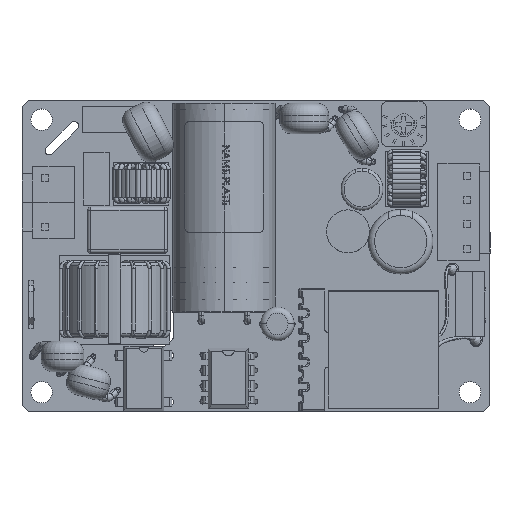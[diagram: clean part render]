
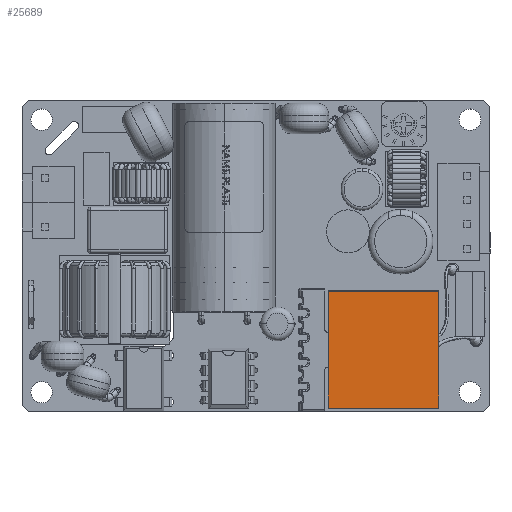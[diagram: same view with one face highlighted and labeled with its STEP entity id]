
A CAD part, top view. The second image highlights one B-rep face of the part: STEP entity #25689.
In plain terms, the highlighted planar face has unit normal (0, 0, 1).
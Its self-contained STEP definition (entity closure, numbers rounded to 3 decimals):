
#2837 = VECTOR ( 'NONE', #24028, 1000. ) ;
#8200 = VECTOR ( 'NONE', #45306, 1000. ) ;
#14223 = CARTESIAN_POINT ( 'NONE',  ( 20.8, 1.5, 10.75 ) ) ;
#16282 = DIRECTION ( 'NONE',  ( 0., 0., 1. ) ) ;
#19106 = EDGE_CURVE ( 'NONE', #115318, #62602, #36852, .T. ) ;
#20823 = FACE_OUTER_BOUND ( 'NONE', #31431, .T. ) ;
#23590 = CARTESIAN_POINT ( 'NONE',  ( 20.8, 1.5, 10.75 ) ) ;
#24028 = DIRECTION ( 'NONE',  ( 0., 1., 0. ) ) ;
#25689 = ADVANCED_FACE ( 'NONE', ( #20823 ), #64568, .T. ) ;
#31431 = EDGE_LOOP ( 'NONE', ( #99784, #92982, #75285, #38957 ) ) ;
#32983 = EDGE_CURVE ( 'NONE', #51498, #115318, #107102, .T. ) ;
#36852 = LINE ( 'NONE', #117219, #115003 ) ;
#38957 = ORIENTED_EDGE ( 'NONE', *, *, #19106, .T. ) ;
#45306 = DIRECTION ( 'NONE',  ( 0., -1., 0. ) ) ;
#46278 = LINE ( 'NONE', #61125, #72230 ) ;
#49659 = EDGE_CURVE ( 'NONE', #57439, #51498, #46278, .T. ) ;
#51498 = VERTEX_POINT ( 'NONE', #75437 ) ;
#57121 = EDGE_CURVE ( 'NONE', #62602, #57439, #63418, .T. ) ;
#57439 = VERTEX_POINT ( 'NONE', #108161 ) ;
#57982 = CARTESIAN_POINT ( 'NONE',  ( 2.8, 1.5, 10.75 ) ) ;
#61125 = CARTESIAN_POINT ( 'NONE',  ( 2.8, -17.5, 10.75 ) ) ;
#62602 = VERTEX_POINT ( 'NONE', #57982 ) ;
#63418 = LINE ( 'NONE', #84627, #8200 ) ;
#64568 = PLANE ( 'NONE',  #116303 ) ;
#67487 = DIRECTION ( 'NONE',  ( -1., 0., 0. ) ) ;
#72230 = VECTOR ( 'NONE', #119878, 1000. ) ;
#74867 = CARTESIAN_POINT ( 'NONE',  ( 0., 0., 10.75 ) ) ;
#75285 = ORIENTED_EDGE ( 'NONE', *, *, #32983, .T. ) ;
#75437 = CARTESIAN_POINT ( 'NONE',  ( 20.8, -17.5, 10.75 ) ) ;
#84627 = CARTESIAN_POINT ( 'NONE',  ( 2.8, 1.5, 10.75 ) ) ;
#84685 = DIRECTION ( 'NONE',  ( 1., 0., 0. ) ) ;
#92982 = ORIENTED_EDGE ( 'NONE', *, *, #49659, .T. ) ;
#99784 = ORIENTED_EDGE ( 'NONE', *, *, #57121, .T. ) ;
#107102 = LINE ( 'NONE', #23590, #2837 ) ;
#108161 = CARTESIAN_POINT ( 'NONE',  ( 2.8, -17.5, 10.75 ) ) ;
#115003 = VECTOR ( 'NONE', #67487, 1000. ) ;
#115318 = VERTEX_POINT ( 'NONE', #14223 ) ;
#116303 = AXIS2_PLACEMENT_3D ( 'NONE', #74867, #16282, #84685 ) ;
#117219 = CARTESIAN_POINT ( 'NONE',  ( 2.8, 1.5, 10.75 ) ) ;
#119878 = DIRECTION ( 'NONE',  ( 1., 0., 0. ) ) ;
